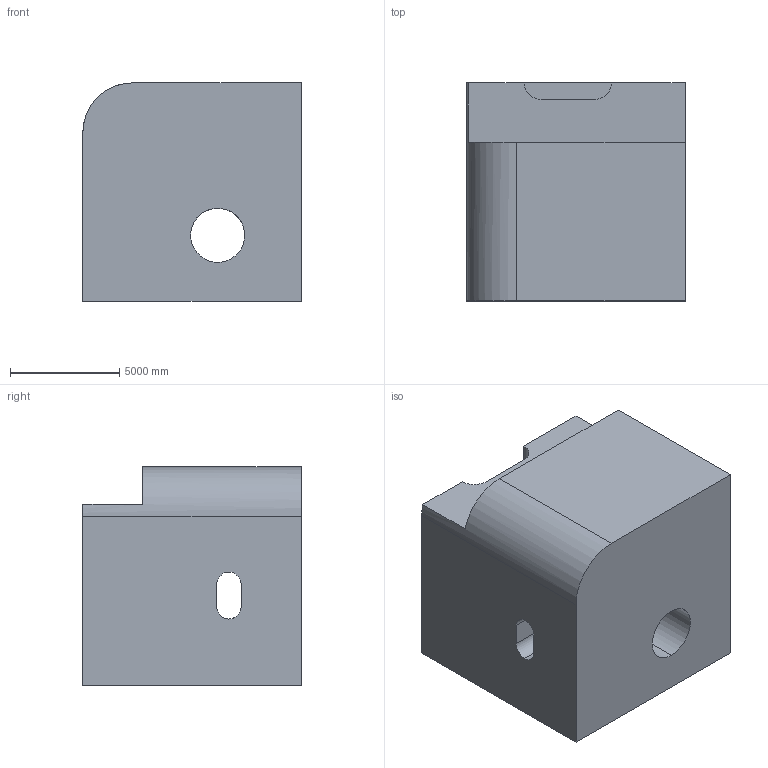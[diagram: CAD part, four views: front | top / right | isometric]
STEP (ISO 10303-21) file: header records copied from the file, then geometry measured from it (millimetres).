
FILE_DESCRIPTION (( 'STEP AP203' ), '1' );
FILE_NAME ('1533.STEP', '2022-08-18T15:07:18', ( 'user' ), ( '' ), 'SwSTEP 2.0', 'SolidWorks 2021', '' );
FILE_SCHEMA (( 'CONFIG_CONTROL_DESIGN' ));
Length unit declared in the file: centimetre
Products named in the file (1): 1533
Bounding box: 10000 x 10000 x 10000 mm (x, y, z)
Volume: 842581810549.9 mm3; surface area: 739337541.1 mm2
Topology: 1 solids, 1 shells, 29 faces, 84 edges, 56 vertices
Faces by surface type: plane 19, cylinder 10
Entity records: 1268 total; most frequent: CARTESIAN_POINT 398, ORIENTED_EDGE 168, DIRECTION 161, EDGE_CURVE 84, VECTOR 59, LINE 59, VERTEX_POINT 56, AXIS2_PLACEMENT_3D 51
